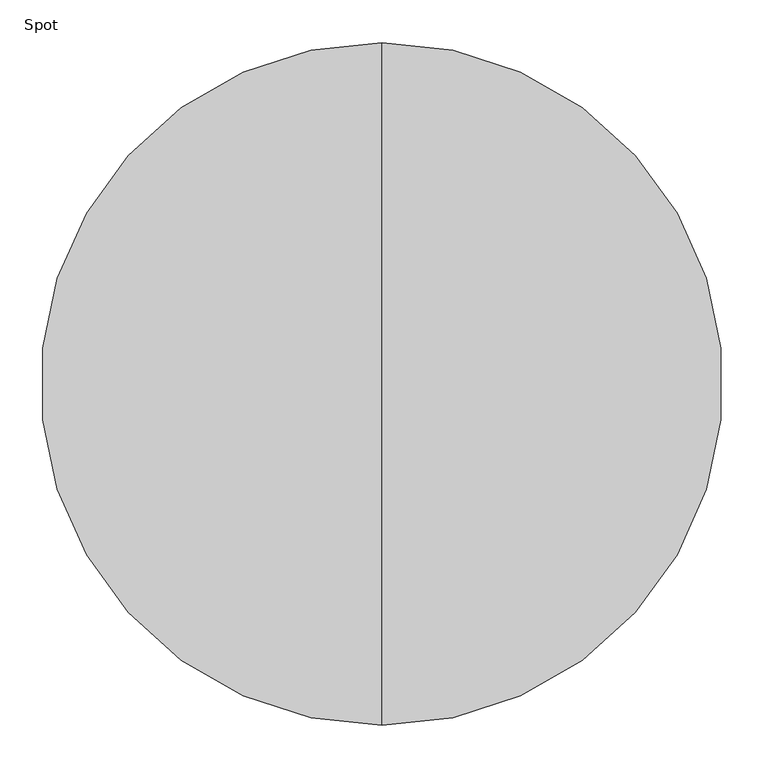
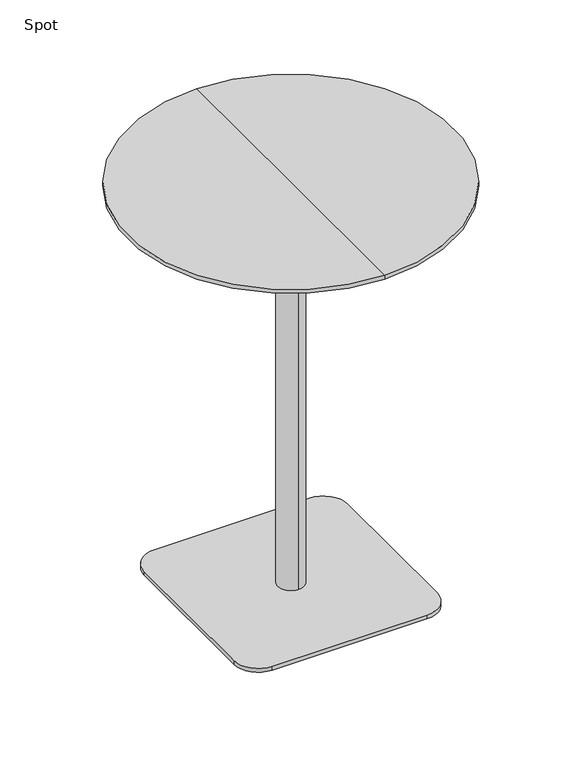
"""IFC4 building model written with IfcOpenShell, lengths in millimetres: furniture geometry, Spot : Bø80x105s."""

from ifc_helpers import new_model, si_unit, point, frame, frame_2d, origin, origin_with_axes, place, context, project, spatial, polyline, circle_curve, trimmed, segment, composite_curve, outline, extrude, source, transform, mapped, element, save
from ifc_brep_helpers import plane_surface, cylinder_surface, revolved_surface, advanced_brep


def spot_f7fbd97c(model_context):
    return source(origin(), model_context, "Body", "SolidModel", [
        advanced_brep(
        [(0.0, -400.0, 1050.0), (0.0, 400.0, 1050.0), (0.0, 0.0, 1050.0), (0.0, 400.0, 1040.25), (0.0, -400.0, 1040.25), (0.0, 0.0, 1028.0), (0.0, -354.2823776, 1028.0), (0.0, 354.2823776, 1028.0)],
        [
            (0, 1, circle_curve(frame((0.0, 0.0, 1050.0), z_axis=(0.0, 0.0, 1.0), x_axis=(0.0, -1.0, 0.0)), 400.0)),
            (1, 2),
            (2, 0),
            (3, 4, circle_curve(frame((0.0, 0.0, 1040.25), z_axis=(0.0, 0.0, 1.0), x_axis=(0.0, -1.0, 0.0)), 400.0)),
            (4, 0),
            (0, 1, circle_curve(frame((0.0, 0.0, 1050.0), z_axis=(0.0, 0.0, -1.0), x_axis=(0.0, -1.0, 0.0)), 400.0)),
            (1, 3),
            (5, 6),
            (6, 7, circle_curve(frame((0.0, 0.0, 1028.0), z_axis=(0.0, 0.0, -1.0), x_axis=(0.0, -1.0, 0.0)), 354.2823776)),
            (7, 5),
            (7, 6, circle_curve(frame((0.0, 0.0, 1028.0), z_axis=(0.0, 0.0, -1.0), x_axis=(0.0, -1.0, 0.0)), 354.2823776)),
            (4, 3, circle_curve(frame((0.0, 0.0, 1040.25), z_axis=(0.0, 0.0, 1.0), x_axis=(0.0, -1.0, 0.0)), 400.0)),
            (6, 4),
            (3, 7),
        ],
        [
            plane_surface(frame((0.0, 0.0, 1050.0), z_axis=(0.0, 0.0, 1.0), x_axis=(0.0, -1.0, 0.0))),
            cylinder_surface(frame((0.0, 0.0, 1130.0), z_axis=(0.0, 0.0, -1.0), x_axis=(0.0, -1.0, 0.0)), 400.0),
            plane_surface(frame((0.0, 0.0, 1028.0), z_axis=(0.0, 0.0, -1.0), x_axis=(0.0, -1.0, 0.0))),
            revolved_surface(polyline([(0.0, -400.0, 1040.25), (0.0, -354.2823776, 1028.0)]), (0.0, 0.0, 1130.0), (0.0, 0.0, -1.0)),
        ],
        [
            (0, [[1, 2, 3]]),
            (1, [[4, 5, 6, 7]]),
            (2, [[8, 9, 10]]),
            (2, [[-10, 11, -8]]),
            (0, [[-6, -3, -2]]),
            (1, [[12, -7, -1, -5]]),
            (3, [[-9, 13, -4, 14]]),
            (3, [[-11, -14, -12, -13]]),
        ],
    ),
        extrude(outline(composite_curve([segment(trimmed(circle_curve(frame_2d((190.0, 190.0)), 60.0), [point((190.0, 250.0))], [point((250.0, 190.0))], False, "CARTESIAN"), True, "CONTINUOUS"), segment(polyline([(250.0, 190.0), (250.0, -190.0)]), True, "CONTINUOUS"), segment(trimmed(circle_curve(frame_2d((190.0, -190.0)), 60.0), [point((250.0, -190.0))], [point((190.0, -250.0))], False, "CARTESIAN"), True, "CONTINUOUS"), segment(polyline([(190.0, -250.0), (-190.0, -250.0)]), True, "CONTINUOUS"), segment(trimmed(circle_curve(frame_2d((-190.0, -190.0)), 60.0), [point((-190.0, -250.0))], [point((-250.0, -190.0))], False, "CARTESIAN"), True, "CONTINUOUS"), segment(polyline([(-250.0, -190.0), (-250.0, 190.0)]), True, "CONTINUOUS"), segment(trimmed(circle_curve(frame_2d((-190.0, 190.0)), 60.0), [point((-250.0, 190.0))], [point((-190.0, 250.0))], False, "CARTESIAN"), True, "CONTINUOUS"), segment(polyline([(-190.0, 250.0), (190.0, 250.0)]), True, "CONTINUOUS")], self_intersect=False)), origin_with_axes(), (0.0, 0.0, 1.0), 10.0),
        advanced_brep(
        [(0.0, 32.0, 10.0), (0.0, -32.0, 10.0), (0.0, -32.0, 997.406916), (0.0, 32.0, 997.406916), (0.0, 0.0, 10.0), (0.0, 150.0, 1028.0), (0.0, -150.0, 1028.0), (0.0, 0.0, 1028.0), (0.0, 150.0, 1016.7213673), (0.0, -150.0, 1016.7213673)],
        [
            (0, 1, circle_curve(frame((0.0, 0.0, 10.0), z_axis=(0.0, 0.0, 1.0), x_axis=(0.0, -1.0, 0.0)), 32.0)),
            (1, 2),
            (2, 3, circle_curve(frame((0.0, 0.0, 997.406916), z_axis=(0.0, 0.0, -1.0), x_axis=(0.0, -1.0, 0.0)), 32.0)),
            (3, 0),
            (1, 0, circle_curve(frame((0.0, 0.0, 10.0), z_axis=(0.0, 0.0, 1.0), x_axis=(0.0, -1.0, 0.0)), 32.0)),
            (3, 2, circle_curve(frame((0.0, 0.0, 997.406916), z_axis=(0.0, 0.0, -1.0), x_axis=(0.0, -1.0, 0.0)), 32.0)),
            (4, 1),
            (0, 4),
            (5, 6, circle_curve(frame((0.0, 0.0, 1028.0), z_axis=(0.0, 0.0, 1.0), x_axis=(0.0, -1.0, 0.0)), 150.0)),
            (6, 7),
            (7, 5),
            (6, 5, circle_curve(frame((0.0, 0.0, 1028.0), z_axis=(0.0, 0.0, 1.0), x_axis=(0.0, -1.0, 0.0)), 150.0)),
            (8, 9, circle_curve(frame((0.0, 0.0, 1016.7213673), z_axis=(0.0, 0.0, 1.0), x_axis=(0.0, -1.0, 0.0)), 150.0)),
            (9, 6),
            (5, 8),
            (9, 8, circle_curve(frame((0.0, 0.0, 1016.7213673), z_axis=(0.0, 0.0, 1.0), x_axis=(0.0, -1.0, 0.0)), 150.0)),
            (2, 9),
            (8, 3),
        ],
        [
            cylinder_surface(frame((0.0, 0.0, 1390.0), z_axis=(0.0, 0.0, -1.0), x_axis=(0.0, -1.0, 0.0)), 32.0),
            plane_surface(frame((0.0, 0.0, 10.0), z_axis=(0.0, 0.0, -1.0), x_axis=(0.0, -1.0, 0.0))),
            plane_surface(frame((0.0, 0.0, 1028.0), z_axis=(0.0, 0.0, 1.0), x_axis=(0.0, -1.0, 0.0))),
            cylinder_surface(frame((0.0, 0.0, 1390.0), z_axis=(0.0, 0.0, -1.0), x_axis=(0.0, -1.0, 0.0)), 150.0),
            revolved_surface(polyline([(0.0, -150.0, 1016.7213673), (0.0, -32.0, 997.406916)]), (0.0, 0.0, 1390.0), (0.0, 0.0, -1.0)),
        ],
        [
            (0, [[1, 2, 3, 4]]),
            (0, [[5, -4, 6, -2]]),
            (1, [[7, -1, 8]]),
            (1, [[-8, -5, -7]]),
            (2, [[9, 10, 11]]),
            (2, [[12, -11, -10]]),
            (3, [[13, 14, -9, 15]]),
            (3, [[16, -15, -12, -14]]),
            (4, [[-3, 17, -13, 18]]),
            (4, [[-6, -18, -16, -17]]),
        ],
    ),
        extrude(outline(polyline([(0.0, 0.0), (-20.0, 0.0), (-20.0, 20.0), (0.0, 20.0), (0.0, 0.0)])), origin_with_axes(), (0.0, 0.0, 1.0), 10.0),
    ])


if __name__ == "__main__":
    model = new_model("IFC4")
    model_context = context("Model", 3, world=origin())
    ifc_project = project(units=[si_unit("LENGTHUNIT", "METRE", prefix="MILLI")], contexts=[model_context])
    site = spatial("IfcSite", under=ifc_project)
    building = spatial("IfcBuilding", under=site)
    placement = place(None, origin())
    spot_shape = spot_f7fbd97c(model_context)
    element("IfcFurniture", 1, ObjectType="Spot : Bø80x105s", at=placement, inside=building, context=model_context, shape_type="MappedRepresentation", body=[
        mapped(spot_shape, transform((0.0, 0.0, 0.0), x_axis=(1.0, 0.0, 0.0), y_axis=(0.0, 1.0, 0.0), z_axis=(0.0, 0.0, 1.0))),
    ])
    save(model, "model.ifc")
